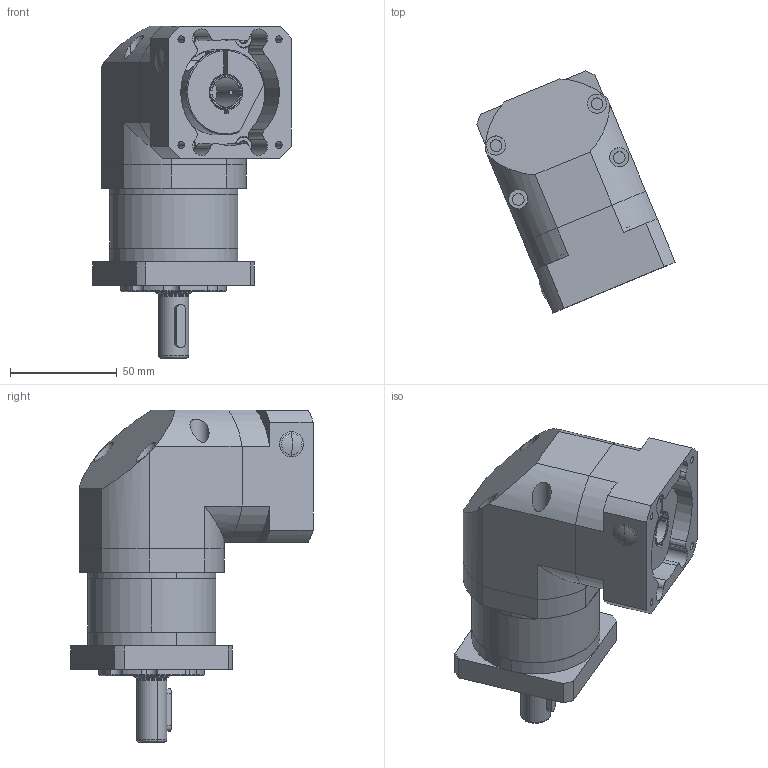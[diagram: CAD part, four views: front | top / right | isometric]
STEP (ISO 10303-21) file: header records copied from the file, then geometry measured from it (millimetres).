
FILE_DESCRIPTION (( 'STEP AP203' ), '1' );
FILE_NAME ('LSFR60-(L1)-S2-P2-5070M4.STEP', '2024-11-14T09:35:43', ( '微软用户' ), ( '微软中国' ), 'SwSTEP 2.0', 'SolidWorks 2022', '' );
FILE_SCHEMA (( 'CONFIG_CONTROL_DESIGN' ));
Length unit declared in the file: millimetre
Products named in the file (1): LSFR60-(L1)-S2-P2-5070M4
Bounding box: 92.91 x 113.46 x 155.5 mm (x, y, z)
Volume: 465386.3 mm3; surface area: 90114.5 mm2
Topology: 12 solids, 12 shells, 626 faces, 1448 edges, 859 vertices
Faces by surface type: plane 255, cylinder 181, cone 150, torus 24, bspline 16
Entity records: 19487 total; most frequent: CARTESIAN_POINT 5361, DIRECTION 3054, ORIENTED_EDGE 2824, EDGE_CURVE 1412, AXIS2_PLACEMENT_3D 1232, VERTEX_POINT 859, EDGE_LOOP 699, ADVANCED_FACE 626
